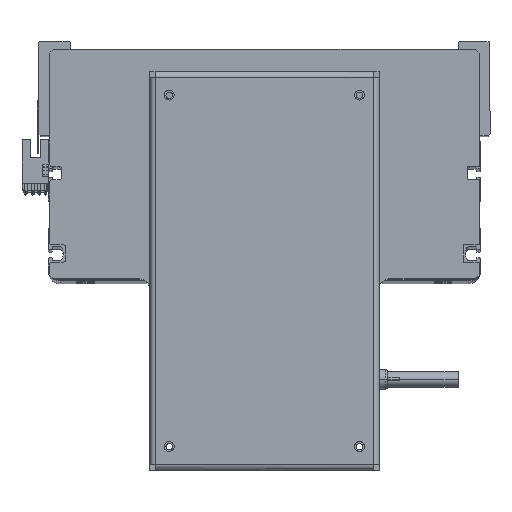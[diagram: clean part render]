
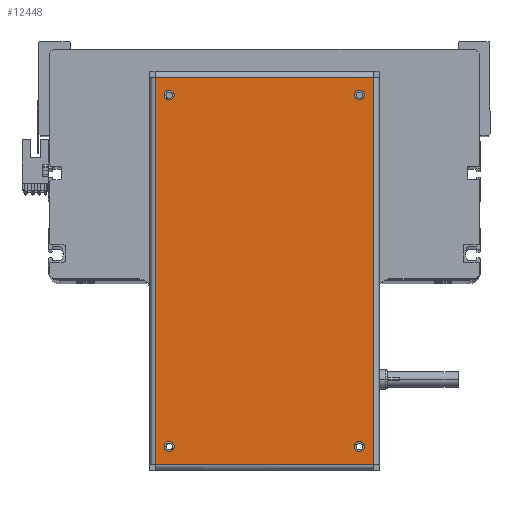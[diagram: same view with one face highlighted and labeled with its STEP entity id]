
A CAD part, top view. The second image highlights one B-rep face of the part: STEP entity #12448.
In plain terms, the highlighted planar face has unit normal (0, 0, 1).
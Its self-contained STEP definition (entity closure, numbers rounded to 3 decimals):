
#39 = EDGE_CURVE ( 'NONE', #29713, #37896, #35485, .T. ) ;
#707 = ORIENTED_EDGE ( 'NONE', *, *, #13864, .T. ) ;
#1484 = DIRECTION ( 'NONE',  ( 1., 0., 0. ) ) ;
#1528 = AXIS2_PLACEMENT_3D ( 'NONE', #16963, #20053, #10776 ) ;
#2168 = DIRECTION ( 'NONE',  ( 0., 0., 1. ) ) ;
#2463 = CARTESIAN_POINT ( 'NONE',  ( -98.65, 55.6, 0. ) ) ;
#2696 = CARTESIAN_POINT ( 'NONE',  ( -89.55, -48.5, 0. ) ) ;
#2981 = DIRECTION ( 'NONE',  ( 0., -1., 0. ) ) ;
#3487 = DIRECTION ( 'NONE',  ( 0., 1., 0. ) ) ;
#3716 = CIRCLE ( 'NONE', #31762, 2.5 ) ;
#3744 = CARTESIAN_POINT ( 'NONE',  ( 98.65, -55.6, 0. ) ) ;
#4699 = VERTEX_POINT ( 'NONE', #27225 ) ;
#4875 = CARTESIAN_POINT ( 'NONE',  ( -89.55, 48.5, 0. ) ) ;
#5354 = CARTESIAN_POINT ( 'NONE',  ( 98.65, 55.6, 0. ) ) ;
#7033 = VERTEX_POINT ( 'NONE', #24917 ) ;
#7276 = EDGE_CURVE ( 'NONE', #35650, #35314, #35152, .T. ) ;
#7991 = EDGE_CURVE ( 'NONE', #15621, #4699, #36137, .T. ) ;
#8118 = CARTESIAN_POINT ( 'NONE',  ( 89.55, 48.5, 0. ) ) ;
#8753 = DIRECTION ( 'NONE',  ( 0., 0., 1. ) ) ;
#9040 = DIRECTION ( 'NONE',  ( 1., 0., 0. ) ) ;
#9209 = VECTOR ( 'NONE', #15074, 1000. ) ;
#9589 = EDGE_CURVE ( 'NONE', #7033, #36039, #29718, .T. ) ;
#10494 = VECTOR ( 'NONE', #2981, 1000. ) ;
#10776 = DIRECTION ( 'NONE',  ( 1., 0., 0. ) ) ;
#10840 = ORIENTED_EDGE ( 'NONE', *, *, #29037, .F. ) ;
#11018 = ORIENTED_EDGE ( 'NONE', *, *, #18561, .F. ) ;
#11769 = DIRECTION ( 'NONE',  ( 0., 0., 1. ) ) ;
#12025 = EDGE_CURVE ( 'NONE', #16262, #35650, #31480, .T. ) ;
#12448 = ADVANCED_FACE ( 'NONE', ( #29480, #19294, #37750, #35270, #38668 ), #32861, .F. ) ;
#13370 = ORIENTED_EDGE ( 'NONE', *, *, #7276, .T. ) ;
#13864 = EDGE_CURVE ( 'NONE', #35314, #37772, #24607, .T. ) ;
#14204 = DIRECTION ( 'NONE',  ( 0., 0., 1. ) ) ;
#14580 = DIRECTION ( 'NONE',  ( 1., 0., 0. ) ) ;
#14735 = VECTOR ( 'NONE', #3487, 1000. ) ;
#15074 = DIRECTION ( 'NONE',  ( -1., 0., 0. ) ) ;
#15368 = EDGE_LOOP ( 'NONE', ( #13370, #707, #17358, #25569 ) ) ;
#15621 = VERTEX_POINT ( 'NONE', #34259 ) ;
#15686 = CIRCLE ( 'NONE', #39694, 2.5 ) ;
#15980 = CIRCLE ( 'NONE', #1528, 2.5 ) ;
#16224 = CARTESIAN_POINT ( 'NONE',  ( -98.65, -55.6, 0. ) ) ;
#16262 = VERTEX_POINT ( 'NONE', #5354 ) ;
#16330 = CARTESIAN_POINT ( 'NONE',  ( -87.05, -48.5, 0. ) ) ;
#16876 = CARTESIAN_POINT ( 'NONE',  ( 98.75, 58.5, 0. ) ) ;
#16909 = DIRECTION ( 'NONE',  ( 1., 0., 0. ) ) ;
#16963 = CARTESIAN_POINT ( 'NONE',  ( -89.55, 48.5, 0. ) ) ;
#17050 = CARTESIAN_POINT ( 'NONE',  ( -98.65, 55.6, 0. ) ) ;
#17327 = DIRECTION ( 'NONE',  ( 0., 0., 1. ) ) ;
#17358 = ORIENTED_EDGE ( 'NONE', *, *, #30422, .T. ) ;
#17371 = CARTESIAN_POINT ( 'NONE',  ( -98.75, -55.6, 0. ) ) ;
#18386 = AXIS2_PLACEMENT_3D ( 'NONE', #32968, #26867, #30221 ) ;
#18561 = EDGE_CURVE ( 'NONE', #34501, #28293, #21762, .T. ) ;
#19294 = FACE_BOUND ( 'NONE', #33065, .T. ) ;
#20053 = DIRECTION ( 'NONE',  ( 0., 0., 1. ) ) ;
#20416 = CARTESIAN_POINT ( 'NONE',  ( 89.55, 48.5, 0. ) ) ;
#20889 = CARTESIAN_POINT ( 'NONE',  ( -92.05, -48.5, 0. ) ) ;
#21762 = CIRCLE ( 'NONE', #24095, 2.5 ) ;
#22956 = ORIENTED_EDGE ( 'NONE', *, *, #37011, .F. ) ;
#23487 = DIRECTION ( 'NONE',  ( -1., 0., 0. ) ) ;
#24095 = AXIS2_PLACEMENT_3D ( 'NONE', #24294, #8753, #27407 ) ;
#24258 = ORIENTED_EDGE ( 'NONE', *, *, #7991, .F. ) ;
#24294 = CARTESIAN_POINT ( 'NONE',  ( -89.55, -48.5, 0. ) ) ;
#24607 = LINE ( 'NONE', #17371, #26049 ) ;
#24917 = CARTESIAN_POINT ( 'NONE',  ( 92.05, -48.5, 0. ) ) ;
#25344 = EDGE_LOOP ( 'NONE', ( #27184, #35865 ) ) ;
#25569 = ORIENTED_EDGE ( 'NONE', *, *, #12025, .T. ) ;
#26049 = VECTOR ( 'NONE', #39034, 1000. ) ;
#26867 = DIRECTION ( 'NONE',  ( 0., 0., 1. ) ) ;
#27184 = ORIENTED_EDGE ( 'NONE', *, *, #39, .F. ) ;
#27225 = CARTESIAN_POINT ( 'NONE',  ( -92.05, 48.5, 0. ) ) ;
#27407 = DIRECTION ( 'NONE',  ( 1., 0., 0. ) ) ;
#27841 = AXIS2_PLACEMENT_3D ( 'NONE', #16876, #29186, #23487 ) ;
#28293 = VERTEX_POINT ( 'NONE', #16330 ) ;
#28813 = CARTESIAN_POINT ( 'NONE',  ( 89.55, -48.5, 0. ) ) ;
#28894 = AXIS2_PLACEMENT_3D ( 'NONE', #20416, #17327, #39122 ) ;
#28914 = CIRCLE ( 'NONE', #32284, 2.5 ) ;
#28934 = CARTESIAN_POINT ( 'NONE',  ( 87.05, -48.5, 0. ) ) ;
#29037 = EDGE_CURVE ( 'NONE', #36039, #7033, #28914, .T. ) ;
#29060 = EDGE_CURVE ( 'NONE', #37896, #29713, #3716, .T. ) ;
#29186 = DIRECTION ( 'NONE',  ( 0., 0., -1. ) ) ;
#29480 = FACE_BOUND ( 'NONE', #34968, .T. ) ;
#29713 = VERTEX_POINT ( 'NONE', #30333 ) ;
#29718 = CIRCLE ( 'NONE', #18386, 2.5 ) ;
#30135 = CARTESIAN_POINT ( 'NONE',  ( 98.65, -55.6, 0. ) ) ;
#30221 = DIRECTION ( 'NONE',  ( 1., 0., 0. ) ) ;
#30333 = CARTESIAN_POINT ( 'NONE',  ( 92.05, 48.5, 0. ) ) ;
#30422 = EDGE_CURVE ( 'NONE', #37772, #16262, #34573, .T. ) ;
#30495 = CARTESIAN_POINT ( 'NONE',  ( 98.75, 55.6, 0. ) ) ;
#31480 = LINE ( 'NONE', #30495, #9209 ) ;
#31577 = CARTESIAN_POINT ( 'NONE',  ( 87.05, 48.5, 0. ) ) ;
#31654 = EDGE_LOOP ( 'NONE', ( #38979, #10840 ) ) ;
#31762 = AXIS2_PLACEMENT_3D ( 'NONE', #8118, #2168, #14580 ) ;
#32284 = AXIS2_PLACEMENT_3D ( 'NONE', #28813, #38547, #1484 ) ;
#32861 = PLANE ( 'NONE',  #27841 ) ;
#32968 = CARTESIAN_POINT ( 'NONE',  ( 89.55, -48.5, 0. ) ) ;
#33065 = EDGE_LOOP ( 'NONE', ( #24258, #22956 ) ) ;
#34208 = EDGE_CURVE ( 'NONE', #28293, #34501, #15686, .T. ) ;
#34259 = CARTESIAN_POINT ( 'NONE',  ( -87.05, 48.5, 0. ) ) ;
#34501 = VERTEX_POINT ( 'NONE', #20889 ) ;
#34573 = LINE ( 'NONE', #3744, #14735 ) ;
#34695 = AXIS2_PLACEMENT_3D ( 'NONE', #4875, #14204, #16909 ) ;
#34968 = EDGE_LOOP ( 'NONE', ( #38771, #11018 ) ) ;
#35152 = LINE ( 'NONE', #2463, #10494 ) ;
#35270 = FACE_BOUND ( 'NONE', #25344, .T. ) ;
#35314 = VERTEX_POINT ( 'NONE', #16224 ) ;
#35485 = CIRCLE ( 'NONE', #28894, 2.5 ) ;
#35650 = VERTEX_POINT ( 'NONE', #17050 ) ;
#35865 = ORIENTED_EDGE ( 'NONE', *, *, #29060, .F. ) ;
#36039 = VERTEX_POINT ( 'NONE', #28934 ) ;
#36137 = CIRCLE ( 'NONE', #34695, 2.5 ) ;
#37011 = EDGE_CURVE ( 'NONE', #4699, #15621, #15980, .T. ) ;
#37750 = FACE_BOUND ( 'NONE', #31654, .T. ) ;
#37772 = VERTEX_POINT ( 'NONE', #30135 ) ;
#37896 = VERTEX_POINT ( 'NONE', #31577 ) ;
#38547 = DIRECTION ( 'NONE',  ( 0., 0., 1. ) ) ;
#38668 = FACE_OUTER_BOUND ( 'NONE', #15368, .T. ) ;
#38771 = ORIENTED_EDGE ( 'NONE', *, *, #34208, .F. ) ;
#38979 = ORIENTED_EDGE ( 'NONE', *, *, #9589, .F. ) ;
#39034 = DIRECTION ( 'NONE',  ( 1., 0., 0. ) ) ;
#39122 = DIRECTION ( 'NONE',  ( 1., 0., 0. ) ) ;
#39694 = AXIS2_PLACEMENT_3D ( 'NONE', #2696, #11769, #9040 ) ;
